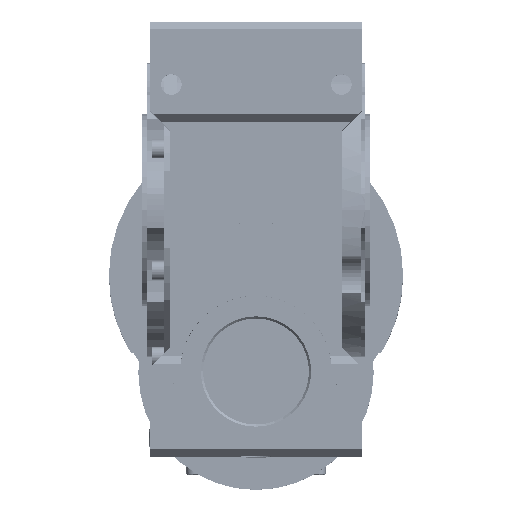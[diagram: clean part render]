
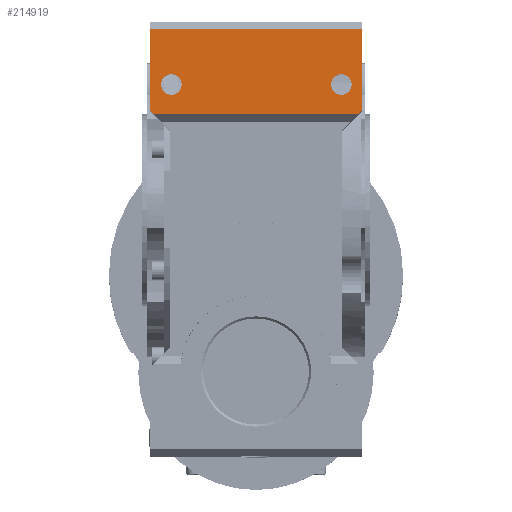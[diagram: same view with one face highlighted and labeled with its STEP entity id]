
A CAD part, top view. The second image highlights one B-rep face of the part: STEP entity #214919.
In plain terms, the highlighted planar face has unit normal (0, 0, 1) as drawn and (-1, 0, 0) by its records, which use the part's own axes.
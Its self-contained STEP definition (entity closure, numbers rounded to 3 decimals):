
#172 = CARTESIAN_POINT ( 'NONE',  ( -127.5, -65., -70. ) ) ;
#173 = CARTESIAN_POINT ( 'NONE',  ( -127.5, -65., 70. ) ) ;
#11389 = LINE ( 'NONE', #78415, #11400 ) ;
#11400 = VECTOR ( 'NONE', #78413, 1000. ) ;
#11402 = LINE ( 'NONE', #78444, #11413 ) ;
#11412 = LINE ( 'NONE', #78456, #11417 ) ;
#11413 = VECTOR ( 'NONE', #78442, 1000. ) ;
#11417 = VECTOR ( 'NONE', #78452, 1000. ) ;
#21542 = VERTEX_POINT ( 'NONE', #193872 ) ;
#21546 = VERTEX_POINT ( 'NONE', #193874 ) ;
#21558 = VERTEX_POINT ( 'NONE', #193884 ) ;
#21562 = VERTEX_POINT ( 'NONE', #193889 ) ;
#23802 = VERTEX_POINT ( 'NONE', #144803 ) ;
#23826 = VERTEX_POINT ( 'NONE', #144828 ) ;
#23834 = VERTEX_POINT ( 'NONE', #144837 ) ;
#23846 = VERTEX_POINT ( 'NONE', #144851 ) ;
#43553 = EDGE_CURVE ( 'NONE', #21562, #21558, #165107, .T. ) ;
#43555 = EDGE_CURVE ( 'NONE', #21546, #21542, #165116, .T. ) ;
#46226 = EDGE_CURVE ( 'NONE', #23802, #23834, #67380, .T. ) ;
#46248 = EDGE_CURVE ( 'NONE', #23802, #23826, #67386, .T. ) ;
#46273 = EDGE_CURVE ( 'NONE', #23826, #23846, #66402, .T. ) ;
#48989 = EDGE_CURVE ( 'NONE', #176969, #23834, #11389, .T. ) ;
#49008 = EDGE_CURVE ( 'NONE', #23846, #176971, #11402, .T. ) ;
#49013 = EDGE_CURVE ( 'NONE', #176971, #176969, #11412, .T. ) ;
#63300 = CARTESIAN_POINT ( 'NONE',  ( -127.5, -85., 57.5 ) ) ;
#63301 = DIRECTION ( 'NONE',  ( 1., 0., 0. ) ) ;
#63302 = DIRECTION ( 'NONE',  ( 0., 0., 1. ) ) ;
#63308 = CARTESIAN_POINT ( 'NONE',  ( -127.5, -85., -58. ) ) ;
#63309 = DIRECTION ( 'NONE',  ( 1., 0., 0. ) ) ;
#63310 = DIRECTION ( 'NONE',  ( 0., 0., 1. ) ) ;
#66402 = LINE ( 'NONE', #151142, #67397 ) ;
#67380 = LINE ( 'NONE', #151116, #67383 ) ;
#67383 = VECTOR ( 'NONE', #151115, 1000. ) ;
#67386 = LINE ( 'NONE', #151132, #67389 ) ;
#67389 = VECTOR ( 'NONE', #151129, 1000. ) ;
#67397 = VECTOR ( 'NONE', #151140, 1000. ) ;
#78413 = DIRECTION ( 'NONE',  ( 0., -0.707, -0.707 ) ) ;
#78415 = CARTESIAN_POINT ( 'NONE',  ( -127.5, -67., -72. ) ) ;
#78442 = DIRECTION ( 'NONE',  ( 0., 0.707, -0.707 ) ) ;
#78444 = CARTESIAN_POINT ( 'NONE',  ( -127.5, -67., 72. ) ) ;
#78452 = DIRECTION ( 'NONE',  ( 0., 0., -1. ) ) ;
#78456 = CARTESIAN_POINT ( 'NONE',  ( -127.5, -65., -72. ) ) ;
#89331 = AXIS2_PLACEMENT_3D ( 'NONE', #63300, #63301, #63302 ) ;
#89336 = AXIS2_PLACEMENT_3D ( 'NONE', #63308, #63309, #63310 ) ;
#117610 = EDGE_LOOP ( 'NONE', ( #174748, #174750 ) ) ;
#117616 = EDGE_LOOP ( 'NONE', ( #174751, #174752 ) ) ;
#117623 = EDGE_LOOP ( 'NONE', ( #174734, #174737, #174739, #174741, #174744, #174746 ) ) ;
#124047 = AXIS2_PLACEMENT_3D ( 'NONE', #138615, #138617, #138619 ) ;
#124052 = AXIS2_PLACEMENT_3D ( 'NONE', #138638, #138640, #138642 ) ;
#138615 = CARTESIAN_POINT ( 'NONE',  ( -127.5, -85., -58. ) ) ;
#138617 = DIRECTION ( 'NONE',  ( 1., 0., 0. ) ) ;
#138619 = DIRECTION ( 'NONE',  ( 0., 0., 1. ) ) ;
#138638 = CARTESIAN_POINT ( 'NONE',  ( -127.5, -85., 57.5 ) ) ;
#138640 = DIRECTION ( 'NONE',  ( 1., 0., 0. ) ) ;
#138642 = DIRECTION ( 'NONE',  ( 0., 0., 1. ) ) ;
#143781 = CIRCLE ( 'NONE', #124047, 7. ) ;
#143813 = CIRCLE ( 'NONE', #124052, 7. ) ;
#144803 = CARTESIAN_POINT ( 'NONE',  ( -127.5, -122.5, -72. ) ) ;
#144828 = CARTESIAN_POINT ( 'NONE',  ( -127.5, -122.5, 72. ) ) ;
#144837 = CARTESIAN_POINT ( 'NONE',  ( -127.5, -67., -72. ) ) ;
#144851 = CARTESIAN_POINT ( 'NONE',  ( -127.5, -67., 72. ) ) ;
#151115 = DIRECTION ( 'NONE',  ( 0., 1., 0. ) ) ;
#151116 = CARTESIAN_POINT ( 'NONE',  ( -127.5, 0., -72. ) ) ;
#151129 = DIRECTION ( 'NONE',  ( 0., 0., 1. ) ) ;
#151132 = CARTESIAN_POINT ( 'NONE',  ( -127.5, -122.5, -72. ) ) ;
#151140 = DIRECTION ( 'NONE',  ( 0., 1., 0. ) ) ;
#151142 = CARTESIAN_POINT ( 'NONE',  ( -127.5, -122.5, 72. ) ) ;
#165107 = CIRCLE ( 'NONE', #89331, 7. ) ;
#165116 = CIRCLE ( 'NONE', #89336, 7. ) ;
#174734 = ORIENTED_EDGE ( 'NONE', *, *, #49008, .T. ) ;
#174737 = ORIENTED_EDGE ( 'NONE', *, *, #49013, .T. ) ;
#174739 = ORIENTED_EDGE ( 'NONE', *, *, #48989, .T. ) ;
#174741 = ORIENTED_EDGE ( 'NONE', *, *, #46226, .F. ) ;
#174744 = ORIENTED_EDGE ( 'NONE', *, *, #46248, .T. ) ;
#174746 = ORIENTED_EDGE ( 'NONE', *, *, #46273, .T. ) ;
#174748 = ORIENTED_EDGE ( 'NONE', *, *, #229917, .T. ) ;
#174750 = ORIENTED_EDGE ( 'NONE', *, *, #43553, .T. ) ;
#174751 = ORIENTED_EDGE ( 'NONE', *, *, #229913, .T. ) ;
#174752 = ORIENTED_EDGE ( 'NONE', *, *, #43555, .T. ) ;
#176969 = VERTEX_POINT ( 'NONE', #172 ) ;
#176971 = VERTEX_POINT ( 'NONE', #173 ) ;
#181680 = FACE_BOUND ( 'NONE', #117616, .T. ) ;
#181682 = FACE_OUTER_BOUND ( 'NONE', #117623, .T. ) ;
#181686 = FACE_BOUND ( 'NONE', #117610, .T. ) ;
#182900 = PLANE ( 'NONE',  #183704 ) ;
#182906 = CARTESIAN_POINT ( 'NONE',  ( -127.5, -122.5, -72. ) ) ;
#182907 = DIRECTION ( 'NONE',  ( -1., 0., 0. ) ) ;
#182908 = DIRECTION ( 'NONE',  ( 0., 0., 1. ) ) ;
#183704 = AXIS2_PLACEMENT_3D ( 'NONE', #182906, #182907, #182908 ) ;
#193872 = CARTESIAN_POINT ( 'NONE',  ( -127.5, -85., -51. ) ) ;
#193874 = CARTESIAN_POINT ( 'NONE',  ( -127.5, -85., -65. ) ) ;
#193884 = CARTESIAN_POINT ( 'NONE',  ( -127.5, -85., 64.5 ) ) ;
#193889 = CARTESIAN_POINT ( 'NONE',  ( -127.5, -85., 50.5 ) ) ;
#214919 = ADVANCED_FACE ( 'NONE', ( #181682, #181686, #181680 ), #182900, .T. ) ;
#229913 = EDGE_CURVE ( 'NONE', #21542, #21546, #143781, .T. ) ;
#229917 = EDGE_CURVE ( 'NONE', #21558, #21562, #143813, .T. ) ;
